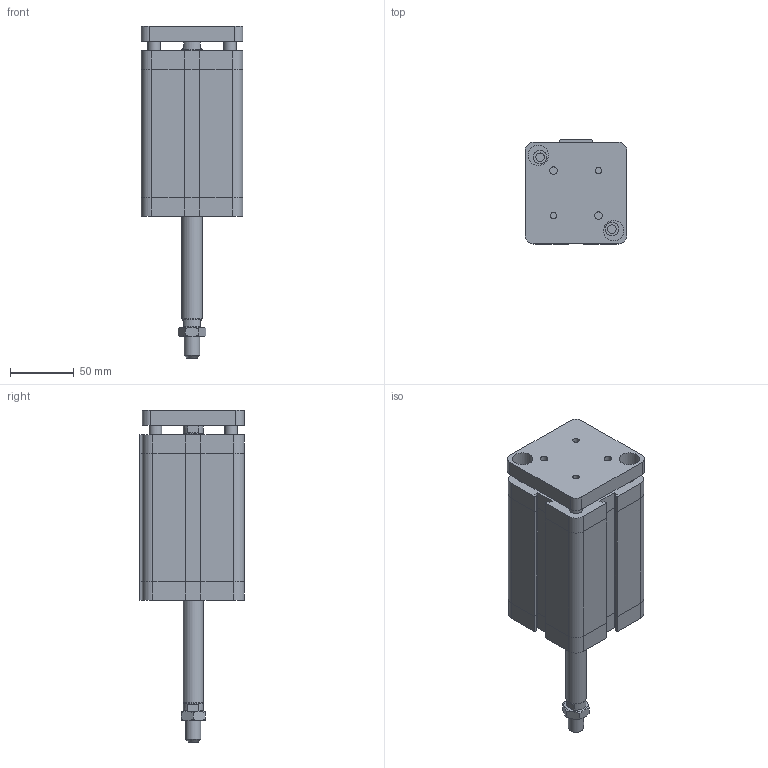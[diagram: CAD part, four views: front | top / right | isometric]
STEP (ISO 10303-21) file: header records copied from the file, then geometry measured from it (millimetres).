
FILE_DESCRIPTION((''),'2;1');
FILE_NAME('I:\Area Tecnica\Disegni\VARIE-3D\Componenti\EUROPE\15##_###_####_09_#\1561_63_0080_09_1.iam.stp','2009-04-20T15:39:35',(''),(''),'Autodesk Inventor 2009','Autodesk Inventor 2009','');
FILE_SCHEMA(('AUTOMOTIVE_DESIGN { 1 0 10303 214 1 1 1 1 }'));
Length unit declared in the file: millimetre
Products named in the file (4): 1561_63_0080_09_1; 1561_63_0080_08_1_C; 1561_63_0080_09_1_SA; DBFM12
Assembly tree (3 placements, depth 2):
  1561_63_0080_09_1
    1561_63_0080_08_1_C
    1561_63_0080_09_1_SA
    DBFM12
Bounding box: 80 x 82 x 261 mm (x, y, z)
Volume: 900805.3 mm3; surface area: 107803.5 mm2
Topology: 3 solids, 3 shells, 209 faces, 470 edges, 287 vertices
Faces by surface type: plane 120, bspline 45, cylinder 23, cone 21
Full cylindrical faces by diameter (mm): 10 x2, 10.8 x1, 12 x1, 15.6 x2, 16 x1
Entity records: 5963 total; most frequent: CARTESIAN_POINT 1453, DIRECTION 838, ORIENTED_EDGE 834, EDGE_CURVE 417, AXIS2_PLACEMENT_3D 282, EDGE_LOOP 282, VECTOR 274, LINE 274
